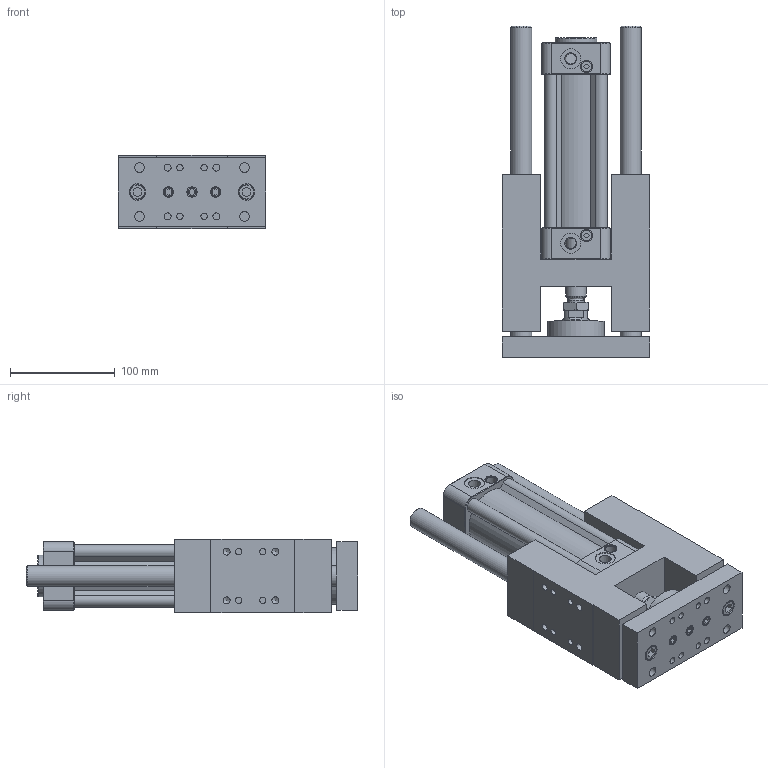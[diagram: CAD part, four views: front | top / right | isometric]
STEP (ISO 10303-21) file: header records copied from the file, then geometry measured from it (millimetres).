
FILE_DESCRIPTION((''),'2;1');
FILE_NAME('I:\3D電子目錄\氣缸\GHB(U)\GHB(U)\GHB(U)50\GHB(U)50x100.stp','2007-10-19T16:37:10',('Administrator'),(''),'Autodesk Inventor 11','Autodesk Inventor 11','');
FILE_SCHEMA(('AUTOMOTIVE_DESIGN { 1 0 10303 214 1 1 1 1 }'));
Length unit declared in the file: millimetre
Products named in the file (1): GHB(U)50
Bounding box: 141 x 316 x 70 mm (x, y, z)
Volume: 1496198.2 mm3; surface area: 288798.7 mm2
Topology: 1 solids, 13 shells, 779 faces, 1736 edges, 1075 vertices
Faces by surface type: plane 299, bspline 222, cylinder 163, cone 88, torus 7
Full cylindrical faces by diameter (mm): 2.5 x2, 6 x8, 6.647 x4, 6.7 x2, 6.75 x4, 7.25 x2, 7.4 x4, 7.5 x2, 8.5 x9, 9 x2, 9.8 x4, 10 x5, 11.5 x1, 11.9 x1, 12 x3, 13 x4, 14 x8, 14.5 x2, 16 x3, 19 x2, 20 x4, 23 x1, 25 x1, 26 x2, 40 x1, 50 x1, 54 x1
Entity records: 22633 total; most frequent: CARTESIAN_POINT 7068, DIRECTION 3100, ORIENTED_EDGE 3020, EDGE_CURVE 1510, AXIS2_PLACEMENT_3D 1202, EDGE_LOOP 1071, VERTEX_POINT 1029, FACE_OUTER_BOUND 778
